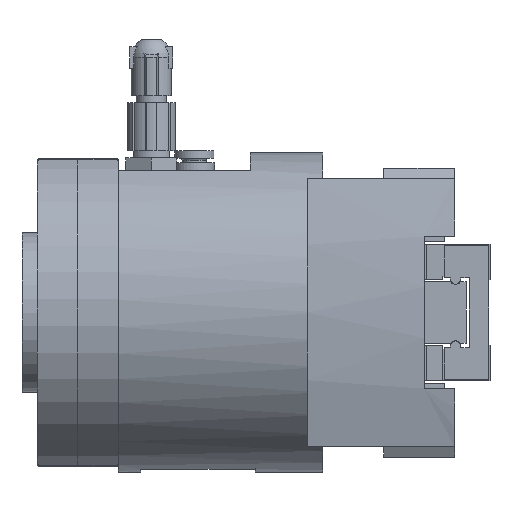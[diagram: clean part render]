
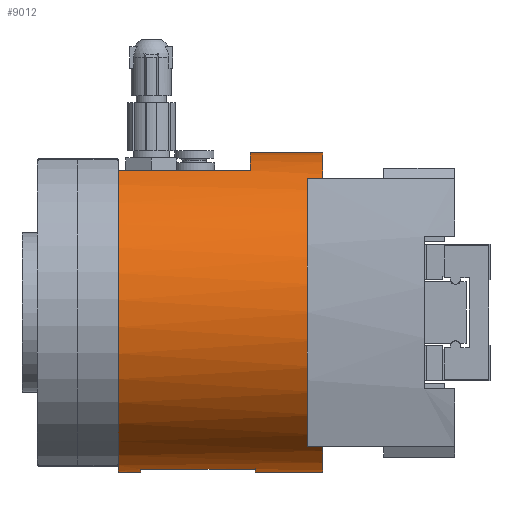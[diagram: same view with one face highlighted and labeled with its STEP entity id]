
A CAD part, left-side view. The second image highlights one B-rep face of the part: STEP entity #9012.
In plain terms, the highlighted cylindrical face has radius 31.5 mm (diameter 63 mm), a full revolution.
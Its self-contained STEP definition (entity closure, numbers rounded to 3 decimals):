
#134=B_SPLINE_CURVE_WITH_KNOTS('',3,(#13482,#13483,#13484,#13485,#13486,
#13487,#13488,#13489,#13490),.UNSPECIFIED.,.F.,.F.,(4,1,1,1,1,1,4),(0.006,
0.01,0.014,0.016,0.018,
0.02,0.022),.UNSPECIFIED.);
#135=B_SPLINE_CURVE_WITH_KNOTS('',3,(#13494,#13495,#13496,#13497,#13498,
#13499,#13500,#13501,#13502),.UNSPECIFIED.,.F.,.F.,(4,1,1,1,1,1,4),(0.,
0.002,0.004,0.006,0.008,
0.012,0.016),.UNSPECIFIED.);
#169=CYLINDRICAL_SURFACE('',#9703,31.5);
#332=CIRCLE('',#9702,31.5);
#333=CIRCLE('',#9704,31.5);
#334=CIRCLE('',#9705,31.5);
#335=CIRCLE('',#9706,31.5);
#336=CIRCLE('',#9707,31.5);
#741=ORIENTED_EDGE('',*,*,#3270,.T.);
#742=ORIENTED_EDGE('',*,*,#3271,.T.);
#743=ORIENTED_EDGE('',*,*,#3182,.T.);
#744=ORIENTED_EDGE('',*,*,#3272,.T.);
#745=ORIENTED_EDGE('',*,*,#3273,.T.);
#746=ORIENTED_EDGE('',*,*,#3258,.F.);
#747=ORIENTED_EDGE('',*,*,#3269,.T.);
#748=ORIENTED_EDGE('',*,*,#3256,.F.);
#749=ORIENTED_EDGE('',*,*,#3274,.T.);
#750=ORIENTED_EDGE('',*,*,#3275,.T.);
#751=ORIENTED_EDGE('',*,*,#3276,.T.);
#752=ORIENTED_EDGE('',*,*,#3260,.F.);
#753=ORIENTED_EDGE('',*,*,#3277,.F.);
#3182=EDGE_CURVE('',#4454,#4453,#5355,.T.);
#3256=EDGE_CURVE('',#4514,#4516,#5397,.F.);
#3258=EDGE_CURVE('',#4517,#4518,#5399,.T.);
#3260=EDGE_CURVE('',#4519,#4520,#5401,.F.);
#3269=EDGE_CURVE('',#4517,#4516,#332,.T.);
#3270=EDGE_CURVE('',#4528,#4528,#333,.T.);
#3271=EDGE_CURVE('',#4529,#4454,#334,.T.);
#3272=EDGE_CURVE('',#4453,#4530,#335,.T.);
#3273=EDGE_CURVE('',#4530,#4529,#5409,.F.);
#3274=EDGE_CURVE('',#4514,#4531,#134,.T.);
#3275=EDGE_CURVE('',#4531,#4532,#5410,.T.);
#3276=EDGE_CURVE('',#4532,#4520,#135,.T.);
#3277=EDGE_CURVE('',#4518,#4519,#336,.T.);
#4453=VERTEX_POINT('',#13292);
#4454=VERTEX_POINT('',#13294);
#4514=VERTEX_POINT('',#13445);
#4516=VERTEX_POINT('',#13448);
#4517=VERTEX_POINT('',#13450);
#4518=VERTEX_POINT('',#13452);
#4519=VERTEX_POINT('',#13454);
#4520=VERTEX_POINT('',#13456);
#4528=VERTEX_POINT('',#13476);
#4529=VERTEX_POINT('',#13478);
#4530=VERTEX_POINT('',#13480);
#4531=VERTEX_POINT('',#13491);
#4532=VERTEX_POINT('',#13493);
#5355=LINE('',#13293,#6260);
#5397=LINE('',#13447,#6302);
#5399=LINE('',#13451,#6304);
#5401=LINE('',#13455,#6306);
#5409=LINE('',#13481,#6314);
#5410=LINE('',#13492,#6315);
#6260=VECTOR('',#10565,1000.);
#6302=VECTOR('',#10707,1000.);
#6304=VECTOR('',#10709,1000.);
#6306=VECTOR('',#10711,1000.);
#6314=VECTOR('',#10733,1000.);
#6315=VECTOR('',#10734,1000.);
#7187=EDGE_LOOP('',(#741));
#7188=EDGE_LOOP('',(#742,#743,#744,#745));
#7189=EDGE_LOOP('',(#746,#747,#748,#749,#750,#751,#752,#753));
#7908=FACE_BOUND('',#7187,.T.);
#7909=FACE_BOUND('',#7188,.T.);
#7910=FACE_BOUND('',#7189,.T.);
#9012=ADVANCED_FACE('',(#7908,#7909,#7910),#169,.T.);
#9702=AXIS2_PLACEMENT_3D('',#13473,#10723,#10724);
#9703=AXIS2_PLACEMENT_3D('',#13474,#10725,#10726);
#9704=AXIS2_PLACEMENT_3D('',#13475,#10727,#10728);
#9705=AXIS2_PLACEMENT_3D('',#13477,#10729,#10730);
#9706=AXIS2_PLACEMENT_3D('',#13479,#10731,#10732);
#9707=AXIS2_PLACEMENT_3D('',#13503,#10735,#10736);
#10565=DIRECTION('',(0.,-1.,0.));
#10707=DIRECTION('',(0.,-1.,0.));
#10709=DIRECTION('',(0.,-1.,0.));
#10711=DIRECTION('',(0.,-1.,0.));
#10723=DIRECTION('',(0.,-1.,0.));
#10724=DIRECTION('',(0.,0.,-1.));
#10725=DIRECTION('',(0.,-1.,0.));
#10726=DIRECTION('',(0.,0.,-1.));
#10727=DIRECTION('',(0.,1.,0.));
#10728=DIRECTION('',(1.,0.,0.));
#10729=DIRECTION('',(0.,1.,0.));
#10730=DIRECTION('',(-1.,0.,0.));
#10731=DIRECTION('',(0.,-1.,0.));
#10732=DIRECTION('',(0.,0.,-1.));
#10733=DIRECTION('',(0.,-1.,0.));
#10734=DIRECTION('',(0.,-1.,0.));
#10735=DIRECTION('',(0.,1.,0.));
#10736=DIRECTION('',(0.,0.,1.));
#13292=CARTESIAN_POINT('',(-6.,-35.,-30.923));
#13293=CARTESIAN_POINT('',(-6.,-49.,-30.923));
#13294=CARTESIAN_POINT('',(-6.,-12.4,-30.923));
#13445=CARTESIAN_POINT('',(14.431,-12.369,28.));
#13447=CARTESIAN_POINT('',(14.431,-49.,28.));
#13448=CARTESIAN_POINT('',(14.431,-8.,28.));
#13450=CARTESIAN_POINT('',(-14.431,-8.,28.));
#13451=CARTESIAN_POINT('',(-14.431,-49.,28.));
#13452=CARTESIAN_POINT('',(-14.431,-34.,28.));
#13454=CARTESIAN_POINT('',(14.431,-34.,28.));
#13455=CARTESIAN_POINT('',(14.431,-49.,28.));
#13456=CARTESIAN_POINT('',(14.431,-33.631,28.));
#13473=CARTESIAN_POINT('',(0.,-8.,0.));
#13474=CARTESIAN_POINT('',(0.,-49.,0.));
#13475=CARTESIAN_POINT('',(0.,-48.3,0.));
#13476=CARTESIAN_POINT('',(31.5,-48.3,0.));
#13477=CARTESIAN_POINT('',(0.,-12.4,0.));
#13478=CARTESIAN_POINT('',(31.305,-12.4,-3.5));
#13479=CARTESIAN_POINT('',(0.,-35.,0.));
#13480=CARTESIAN_POINT('',(31.305,-35.,-3.5));
#13481=CARTESIAN_POINT('',(31.305,-49.,-3.5));
#13482=CARTESIAN_POINT('',(14.431,-12.369,28.));
#13483=CARTESIAN_POINT('',(15.439,-11.668,27.48));
#13484=CARTESIAN_POINT('',(17.722,-10.965,26.151));
#13485=CARTESIAN_POINT('',(20.362,-11.553,24.09));
#13486=CARTESIAN_POINT('',(22.107,-12.701,22.461));
#13487=CARTESIAN_POINT('',(23.212,-13.914,21.311));
#13488=CARTESIAN_POINT('',(24.027,-15.518,20.377));
#13489=CARTESIAN_POINT('',(24.25,-16.827,20.104));
#13490=CARTESIAN_POINT('',(24.25,-17.5,20.104));
#13491=CARTESIAN_POINT('',(24.25,-17.5,20.104));
#13492=CARTESIAN_POINT('',(24.25,-49.,20.104));
#13493=CARTESIAN_POINT('',(24.25,-28.5,20.104));
#13494=CARTESIAN_POINT('',(24.25,-28.5,20.104));
#13495=CARTESIAN_POINT('',(24.25,-29.174,20.104));
#13496=CARTESIAN_POINT('',(24.027,-30.482,20.377));
#13497=CARTESIAN_POINT('',(23.21,-32.09,21.314));
#13498=CARTESIAN_POINT('',(22.104,-33.302,22.464));
#13499=CARTESIAN_POINT('',(20.354,-34.449,24.097));
#13500=CARTESIAN_POINT('',(17.737,-35.038,26.141));
#13501=CARTESIAN_POINT('',(15.429,-34.325,27.486));
#13502=CARTESIAN_POINT('',(14.431,-33.631,28.));
#13503=CARTESIAN_POINT('',(0.,-34.,0.));
